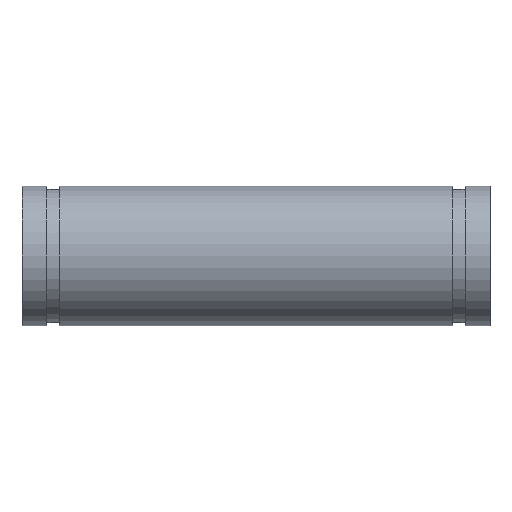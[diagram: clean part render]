
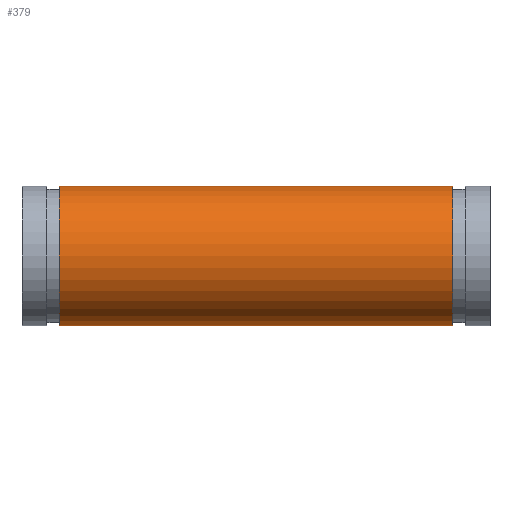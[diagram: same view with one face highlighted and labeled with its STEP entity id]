
A CAD part, left-side view. The second image highlights one B-rep face of the part: STEP entity #379.
In plain terms, the highlighted cylindrical face has radius 44.45 mm (diameter 88.9 mm), a full revolution.
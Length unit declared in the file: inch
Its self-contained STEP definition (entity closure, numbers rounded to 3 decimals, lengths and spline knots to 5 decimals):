
#45=ELLIPSE('',#439,4.57297,1.75);
#46=ELLIPSE('',#440,4.57297,1.75);
#47=ELLIPSE('',#441,1.89419,1.75);
#57=LINE('',#676,#68);
#68=VECTOR('',#544,1.75);
#79=CYLINDRICAL_SURFACE('',#438,1.75);
#90=FACE_BOUND('',#131,.T.);
#105=FACE_OUTER_BOUND('',#130,.T.);
#130=EDGE_LOOP('',(#292,#293,#294,#295));
#131=EDGE_LOOP('',(#296,#297,#298));
#154=CIRCLE('',#426,1.75);
#155=CIRCLE('',#428,1.75);
#181=VERTEX_POINT('',#653);
#182=VERTEX_POINT('',#656);
#189=VERTEX_POINT('',#677);
#190=VERTEX_POINT('',#678);
#191=VERTEX_POINT('',#680);
#218=EDGE_CURVE('',#181,#181,#154,.T.);
#219=EDGE_CURVE('',#182,#182,#155,.T.);
#228=EDGE_CURVE('',#181,#182,#57,.T.);
#229=EDGE_CURVE('',#189,#190,#45,.T.);
#230=EDGE_CURVE('',#190,#191,#46,.T.);
#231=EDGE_CURVE('',#191,#189,#47,.T.);
#292=ORIENTED_EDGE('',*,*,#218,.T.);
#293=ORIENTED_EDGE('',*,*,#228,.T.);
#294=ORIENTED_EDGE('',*,*,#219,.T.);
#295=ORIENTED_EDGE('',*,*,#228,.F.);
#296=ORIENTED_EDGE('',*,*,#229,.T.);
#297=ORIENTED_EDGE('',*,*,#230,.T.);
#298=ORIENTED_EDGE('',*,*,#231,.T.);
#379=ADVANCED_FACE('',(#105,#90),#79,.T.);
#426=AXIS2_PLACEMENT_3D('',#654,#516,#517);
#428=AXIS2_PLACEMENT_3D('',#657,#520,#521);
#438=AXIS2_PLACEMENT_3D('',#675,#542,#543);
#439=AXIS2_PLACEMENT_3D('',#679,#545,#546);
#440=AXIS2_PLACEMENT_3D('',#681,#547,#548);
#441=AXIS2_PLACEMENT_3D('',#682,#549,#550);
#516=DIRECTION('center_axis',(0.,1.,0.));
#517=DIRECTION('ref_axis',(1.,0.,0.));
#520=DIRECTION('center_axis',(0.,-1.,0.));
#521=DIRECTION('ref_axis',(1.,0.,0.));
#542=DIRECTION('center_axis',(0.,-1.,0.));
#543=DIRECTION('ref_axis',(1.,0.,0.));
#544=DIRECTION('',(0.,1.,0.));
#545=DIRECTION('center_axis',(-0.924,0.383,0.));
#546=DIRECTION('ref_axis',(-0.383,-0.924,0.));
#547=DIRECTION('center_axis',(-0.924,0.383,0.));
#548=DIRECTION('ref_axis',(-0.383,-0.924,0.));
#549=DIRECTION('center_axis',(-0.383,-0.924,0.));
#550=DIRECTION('ref_axis',(0.924,-0.383,0.));
#653=CARTESIAN_POINT('',(-1.75,-2.312,0.));
#654=CARTESIAN_POINT('Origin',(0.,-2.312,0.));
#656=CARTESIAN_POINT('',(-1.75,7.562,0.));
#657=CARTESIAN_POINT('Origin',(0.,7.562,0.));
#675=CARTESIAN_POINT('Origin',(0.,8.5,0.));
#676=CARTESIAN_POINT('',(-1.75,8.5,0.));
#677=CARTESIAN_POINT('',(0.,0.,1.75));
#678=CARTESIAN_POINT('',(1.75,4.22487,0.));
#679=CARTESIAN_POINT('Origin',(0.,0.,
0.));
#680=CARTESIAN_POINT('',(0.,0.,-1.75));
#681=CARTESIAN_POINT('Origin',(0.,0.,
0.));
#682=CARTESIAN_POINT('Origin',(0.,0.,
0.));
